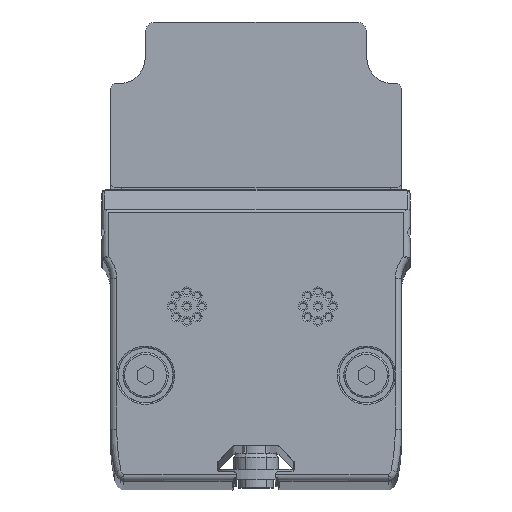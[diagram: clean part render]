
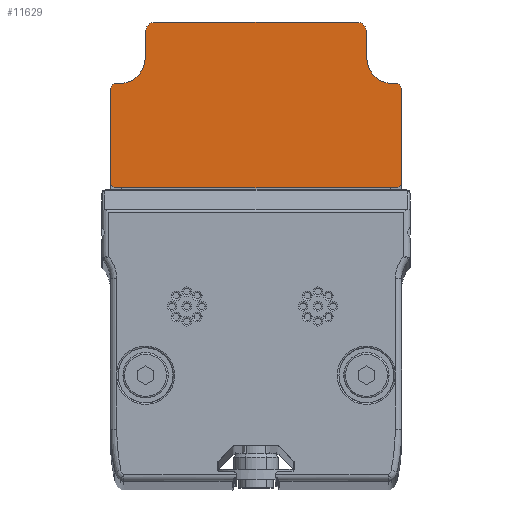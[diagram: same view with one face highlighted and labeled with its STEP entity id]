
A CAD part, top view. The second image highlights one B-rep face of the part: STEP entity #11629.
In plain terms, the highlighted planar face has unit normal (0, 0, 1).
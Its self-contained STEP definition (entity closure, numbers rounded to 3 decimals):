
#203 = CARTESIAN_POINT ( 'NONE',  ( -21.5, 23.8, 754. ) ) ;
#336 = LINE ( 'NONE', #12566, #11407 ) ;
#435 = DIRECTION ( 'NONE',  ( 0., 0., 1. ) ) ;
#483 = AXIS2_PLACEMENT_3D ( 'NONE', #203, #12593, #18070 ) ;
#881 = VERTEX_POINT ( 'NONE', #11026 ) ;
#1063 = ORIENTED_EDGE ( 'NONE', *, *, #30431, .F. ) ;
#1448 = CARTESIAN_POINT ( 'NONE',  ( 21.1, 38.9, 754. ) ) ;
#1688 = DIRECTION ( 'NONE',  ( -1., 0., 0. ) ) ;
#2176 = EDGE_CURVE ( 'NONE', #13142, #21202, #17186, .T. ) ;
#2252 = VECTOR ( 'NONE', #32406, 1000. ) ;
#2293 = LINE ( 'NONE', #14202, #2252 ) ;
#2534 = CARTESIAN_POINT ( 'NONE',  ( 21.5, 22.8, 754. ) ) ;
#2678 = AXIS2_PLACEMENT_3D ( 'NONE', #28744, #8554, #31550 ) ;
#2864 = CARTESIAN_POINT ( 'NONE',  ( -22.5, 23.8, 754. ) ) ;
#2882 = DIRECTION ( 'NONE',  ( 0., -1., 0. ) ) ;
#2933 = AXIS2_PLACEMENT_3D ( 'NONE', #4586, #9209, #26912 ) ;
#3115 = DIRECTION ( 'NONE',  ( -1., 0., 0. ) ) ;
#3435 = CARTESIAN_POINT ( 'NONE',  ( 15.5, 46.8, 754. ) ) ;
#3580 = DIRECTION ( 'NONE',  ( 1., 0., 0. ) ) ;
#3805 = VERTEX_POINT ( 'NONE', #10620 ) ;
#3811 = EDGE_CURVE ( 'NONE', #6859, #881, #18573, .T. ) ;
#3919 = DIRECTION ( 'NONE',  ( 0., 0., -1. ) ) ;
#4353 = DIRECTION ( 'NONE',  ( 1., 0., 0. ) ) ;
#4583 = EDGE_CURVE ( 'NONE', #17296, #11619, #27916, .T. ) ;
#4586 = CARTESIAN_POINT ( 'NONE',  ( -21.1, 42.9, 754. ) ) ;
#4698 = CARTESIAN_POINT ( 'NONE',  ( 21.5, 23.8, 754. ) ) ;
#5205 = EDGE_CURVE ( 'NONE', #3805, #13142, #7997, .T. ) ;
#5212 = CARTESIAN_POINT ( 'NONE',  ( 22.5, 23.8, 754. ) ) ;
#6291 = ORIENTED_EDGE ( 'NONE', *, *, #20416, .T. ) ;
#6389 = VECTOR ( 'NONE', #1688, 1000. ) ;
#6816 = CARTESIAN_POINT ( 'NONE',  ( 21.1, 42.9, 754. ) ) ;
#6859 = VERTEX_POINT ( 'NONE', #5212 ) ;
#7213 = CIRCLE ( 'NONE', #30992, 1.6 ) ;
#7482 = VERTEX_POINT ( 'NONE', #16585 ) ;
#7819 = VERTEX_POINT ( 'NONE', #11348 ) ;
#7997 = LINE ( 'NONE', #22562, #13904 ) ;
#8368 = EDGE_CURVE ( 'NONE', #21899, #6859, #24340, .T. ) ;
#8398 = CARTESIAN_POINT ( 'NONE',  ( 17.1, 46.8, 754. ) ) ;
#8554 = DIRECTION ( 'NONE',  ( 0., 0., 1. ) ) ;
#8631 = DIRECTION ( 'NONE',  ( 0., 1., 0. ) ) ;
#8712 = FACE_OUTER_BOUND ( 'NONE', #32735, .T. ) ;
#9010 = AXIS2_PLACEMENT_3D ( 'NONE', #4698, #12615, #22403 ) ;
#9209 = DIRECTION ( 'NONE',  ( 0., 0., -1. ) ) ;
#10421 = EDGE_CURVE ( 'NONE', #19316, #21202, #336, .T. ) ;
#10620 = CARTESIAN_POINT ( 'NONE',  ( -17.1, 46.8, 754. ) ) ;
#10799 = EDGE_CURVE ( 'NONE', #13145, #22292, #7213, .T. ) ;
#10839 = VERTEX_POINT ( 'NONE', #16503 ) ;
#11026 = CARTESIAN_POINT ( 'NONE',  ( 22.5, 37.9, 754. ) ) ;
#11264 = LINE ( 'NONE', #16579, #6389 ) ;
#11348 = CARTESIAN_POINT ( 'NONE',  ( -22.5, 37.9, 754. ) ) ;
#11407 = VECTOR ( 'NONE', #15232, 1000. ) ;
#11418 = ORIENTED_EDGE ( 'NONE', *, *, #5205, .T. ) ;
#11619 = VERTEX_POINT ( 'NONE', #1448 ) ;
#11629 = ADVANCED_FACE ( 'NONE', ( #8712 ), #18811, .T. ) ;
#11677 = ORIENTED_EDGE ( 'NONE', *, *, #4583, .T. ) ;
#11942 = ORIENTED_EDGE ( 'NONE', *, *, #2176, .T. ) ;
#11946 = VECTOR ( 'NONE', #8631, 1000. ) ;
#12019 = ORIENTED_EDGE ( 'NONE', *, *, #10799, .F. ) ;
#12516 = DIRECTION ( 'NONE',  ( 0., -1., 0. ) ) ;
#12566 = CARTESIAN_POINT ( 'NONE',  ( 0., 38.9, 754. ) ) ;
#12593 = DIRECTION ( 'NONE',  ( 0., 0., 1. ) ) ;
#12615 = DIRECTION ( 'NONE',  ( 0., 0., 1. ) ) ;
#12718 = ORIENTED_EDGE ( 'NONE', *, *, #14670, .T. ) ;
#12814 = DIRECTION ( 'NONE',  ( -1., 0., 0. ) ) ;
#13032 = CARTESIAN_POINT ( 'NONE',  ( 0., 38.9, 754. ) ) ;
#13142 = VERTEX_POINT ( 'NONE', #18886 ) ;
#13145 = VERTEX_POINT ( 'NONE', #16901 ) ;
#13904 = VECTOR ( 'NONE', #2882, 1000. ) ;
#14202 = CARTESIAN_POINT ( 'NONE',  ( 0., 22.8, 754. ) ) ;
#14670 = EDGE_CURVE ( 'NONE', #881, #17296, #20306, .T. ) ;
#15214 = ORIENTED_EDGE ( 'NONE', *, *, #24708, .F. ) ;
#15232 = DIRECTION ( 'NONE',  ( 1., 0., 0. ) ) ;
#15944 = AXIS2_PLACEMENT_3D ( 'NONE', #6816, #20050, #4353 ) ;
#16447 = VECTOR ( 'NONE', #12516, 1000. ) ;
#16503 = CARTESIAN_POINT ( 'NONE',  ( 17.1, 42.9, 754. ) ) ;
#16579 = CARTESIAN_POINT ( 'NONE',  ( 0., 48.4, 754. ) ) ;
#16585 = CARTESIAN_POINT ( 'NONE',  ( -21.5, 22.8, 754. ) ) ;
#16901 = CARTESIAN_POINT ( 'NONE',  ( 15.5, 48.4, 754. ) ) ;
#17037 = CARTESIAN_POINT ( 'NONE',  ( 21.5, 37.9, 754. ) ) ;
#17186 = CIRCLE ( 'NONE', #2933, 4. ) ;
#17296 = VERTEX_POINT ( 'NONE', #20469 ) ;
#17738 = VERTEX_POINT ( 'NONE', #27375 ) ;
#18070 = DIRECTION ( 'NONE',  ( 1., 0., 0. ) ) ;
#18299 = CARTESIAN_POINT ( 'NONE',  ( -21.5, 38.9, 754. ) ) ;
#18329 = EDGE_CURVE ( 'NONE', #13145, #17738, #11264, .T. ) ;
#18573 = LINE ( 'NONE', #31309, #11946 ) ;
#18705 = EDGE_CURVE ( 'NONE', #3805, #17738, #27032, .T. ) ;
#18811 = PLANE ( 'NONE',  #2678 ) ;
#18843 = EDGE_CURVE ( 'NONE', #11619, #10839, #21223, .T. ) ;
#18886 = CARTESIAN_POINT ( 'NONE',  ( -17.1, 42.9, 754. ) ) ;
#19316 = VERTEX_POINT ( 'NONE', #18299 ) ;
#19947 = ORIENTED_EDGE ( 'NONE', *, *, #30048, .T. ) ;
#20039 = VECTOR ( 'NONE', #23793, 1000. ) ;
#20050 = DIRECTION ( 'NONE',  ( 0., 0., -1. ) ) ;
#20306 = CIRCLE ( 'NONE', #29296, 1. ) ;
#20416 = EDGE_CURVE ( 'NONE', #19316, #7819, #22266, .T. ) ;
#20469 = CARTESIAN_POINT ( 'NONE',  ( 21.5, 38.9, 754. ) ) ;
#20987 = LINE ( 'NONE', #26115, #20039 ) ;
#21202 = VERTEX_POINT ( 'NONE', #25514 ) ;
#21223 = CIRCLE ( 'NONE', #15944, 4. ) ;
#21899 = VERTEX_POINT ( 'NONE', #2534 ) ;
#22014 = VERTEX_POINT ( 'NONE', #2864 ) ;
#22266 = CIRCLE ( 'NONE', #22799, 1. ) ;
#22292 = VERTEX_POINT ( 'NONE', #8398 ) ;
#22403 = DIRECTION ( 'NONE',  ( 1., 0., 0. ) ) ;
#22479 = DIRECTION ( 'NONE',  ( 0., 0., 1. ) ) ;
#22562 = CARTESIAN_POINT ( 'NONE',  ( -17.1, 0., 754. ) ) ;
#22799 = AXIS2_PLACEMENT_3D ( 'NONE', #26079, #435, #3580 ) ;
#23075 = DIRECTION ( 'NONE',  ( 0., 0., -1. ) ) ;
#23793 = DIRECTION ( 'NONE',  ( 0., 1., 0. ) ) ;
#24055 = ORIENTED_EDGE ( 'NONE', *, *, #18843, .T. ) ;
#24340 = CIRCLE ( 'NONE', #9010, 1. ) ;
#24708 = EDGE_CURVE ( 'NONE', #22014, #7819, #20987, .T. ) ;
#24762 = ORIENTED_EDGE ( 'NONE', *, *, #18705, .F. ) ;
#25264 = LINE ( 'NONE', #27258, #16447 ) ;
#25514 = CARTESIAN_POINT ( 'NONE',  ( -21.1, 38.9, 754. ) ) ;
#26079 = CARTESIAN_POINT ( 'NONE',  ( -21.5, 37.9, 754. ) ) ;
#26115 = CARTESIAN_POINT ( 'NONE',  ( -22.5, 0., 754. ) ) ;
#26411 = DIRECTION ( 'NONE',  ( -1., 0., 0. ) ) ;
#26912 = DIRECTION ( 'NONE',  ( 1., 0., 0. ) ) ;
#27032 = CIRCLE ( 'NONE', #30206, 1.6 ) ;
#27250 = ORIENTED_EDGE ( 'NONE', *, *, #31813, .F. ) ;
#27258 = CARTESIAN_POINT ( 'NONE',  ( 17.1, 0., 754. ) ) ;
#27375 = CARTESIAN_POINT ( 'NONE',  ( -15.5, 48.4, 754. ) ) ;
#27916 = LINE ( 'NONE', #13032, #30481 ) ;
#28206 = ORIENTED_EDGE ( 'NONE', *, *, #18329, .T. ) ;
#28470 = ORIENTED_EDGE ( 'NONE', *, *, #3811, .T. ) ;
#28744 = CARTESIAN_POINT ( 'NONE',  ( 0., 0., 754. ) ) ;
#29296 = AXIS2_PLACEMENT_3D ( 'NONE', #17037, #22479, #32727 ) ;
#30034 = CARTESIAN_POINT ( 'NONE',  ( -15.5, 46.8, 754. ) ) ;
#30041 = ORIENTED_EDGE ( 'NONE', *, *, #10421, .F. ) ;
#30048 = EDGE_CURVE ( 'NONE', #22014, #7482, #31659, .T. ) ;
#30206 = AXIS2_PLACEMENT_3D ( 'NONE', #30034, #23075, #12814 ) ;
#30431 = EDGE_CURVE ( 'NONE', #22292, #10839, #25264, .T. ) ;
#30481 = VECTOR ( 'NONE', #3115, 1000. ) ;
#30992 = AXIS2_PLACEMENT_3D ( 'NONE', #3435, #3919, #26411 ) ;
#31309 = CARTESIAN_POINT ( 'NONE',  ( 22.5, 0., 754. ) ) ;
#31550 = DIRECTION ( 'NONE',  ( -1., 0., 0. ) ) ;
#31659 = CIRCLE ( 'NONE', #483, 1. ) ;
#31813 = EDGE_CURVE ( 'NONE', #21899, #7482, #2293, .T. ) ;
#32406 = DIRECTION ( 'NONE',  ( -1., 0., 0. ) ) ;
#32634 = ORIENTED_EDGE ( 'NONE', *, *, #8368, .T. ) ;
#32727 = DIRECTION ( 'NONE',  ( 1., 0., 0. ) ) ;
#32735 = EDGE_LOOP ( 'NONE', ( #30041, #6291, #15214, #19947, #27250, #32634, #28470, #12718, #11677, #24055, #1063, #12019, #28206, #24762, #11418, #11942 ) ) ;
